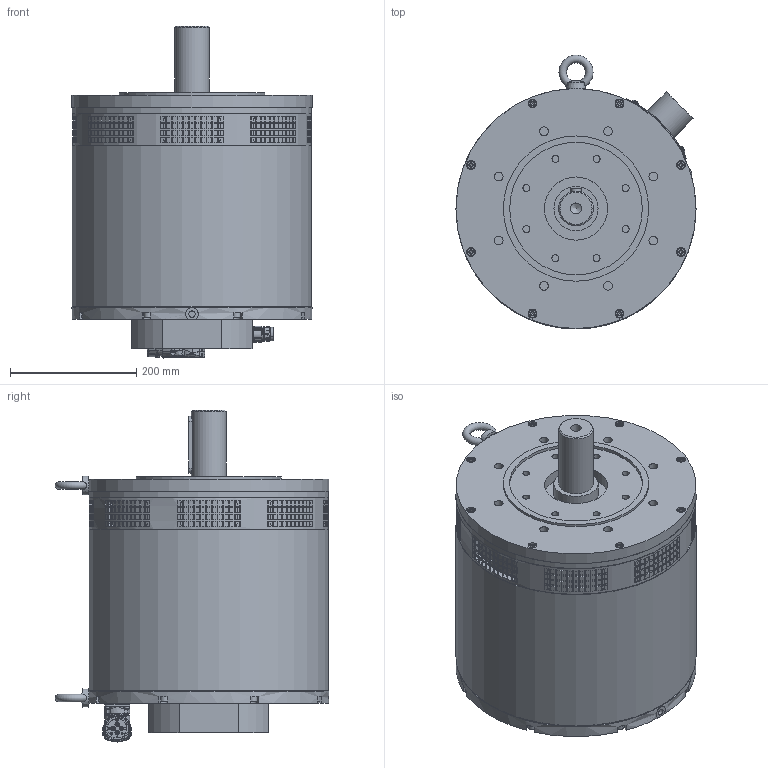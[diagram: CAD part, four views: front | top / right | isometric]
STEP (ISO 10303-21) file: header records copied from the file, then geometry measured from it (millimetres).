
FILE_DESCRIPTION(/* description */ (''),/* implementation_level */ '2;1');
FILE_NAME(/* name */ 'C:\Users\Public\Documents\Autodesk\Inventor LT 2014\Workspace\Motori Sito WEB\TG_9\STEP_DAP_9x\DAP_92_x099.stp',/* time_stamp */ '2021-04-07T12:58:08+02:00',/* author */ ('marcor'),/* organization */ (''),/* preprocessor_version */ 'ST-DEVELOPER v15.2',/* originating_system */ 'Autodesk Inventor LT ',/* authorisation */ '');
FILE_SCHEMA (('AUTOMOTIVE_DESIGN { 1 0 10303 214 3 1 1 }'));
Products named in the file (1): DAP_92_x099
Bounding box: 380 x 433.04 x 525.55 mm (x, y, z)
Volume: 41500744.2 mm3; surface area: 1430253.4 mm2
Topology: 33 solids, 48 shells, 3413 faces, 9336 edges, 6125 vertices
Faces by surface type: plane 2121, cylinder 738, cone 334, torus 113, bspline 86, sphere 21
Full cylindrical faces by diameter (mm): 1.431 x12, 2 x2, 2.224 x3, 2.5 x3, 2.7 x3, 2.88 x4, 3.242 x4, 3.6 x5, 4 x5, 4.8 x4, 4.917 x4, 5.4 x1, 6 x4, 6.5 x4, 6.647 x16, 7 x4, 8 x19, 8.5 x1, 9 x16, 9.853 x2, 10 x12, 10.106 x3, 11 x12, 12 x2, 13 x16, 13.835 x8, 14 x8, 14.9 x1, 17.294 x1, 19.8 x1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
Entity records: 111935 total; most frequent: CARTESIAN_POINT 26255, ORIENTED_EDGE 17534, DIRECTION 17110, EDGE_CURVE 8767, AXIS2_PLACEMENT_3D 6159, VERTEX_POINT 5986, LINE 4792, VECTOR 4792
